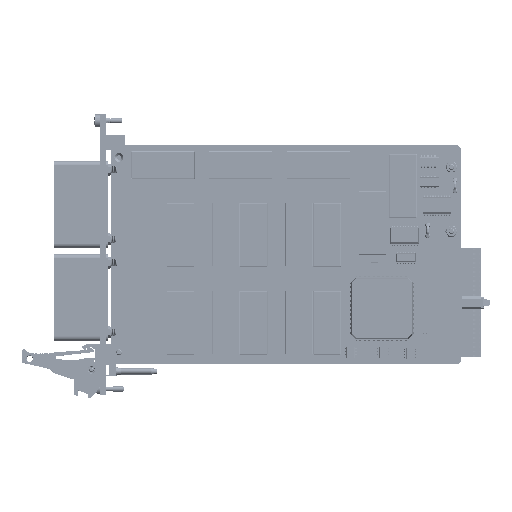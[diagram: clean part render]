
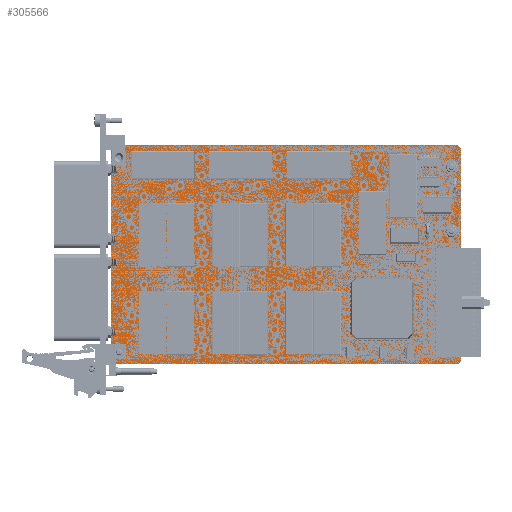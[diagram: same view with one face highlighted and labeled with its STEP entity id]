
A CAD part, top view. The second image highlights one B-rep face of the part: STEP entity #305566.
In plain terms, the highlighted planar face has unit normal (0, 0, 1).
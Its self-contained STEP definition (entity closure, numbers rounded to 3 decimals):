
#2215 = LINE ( 'NONE', #192130, #225835 ) ;
#9747 = DIRECTION ( 'NONE',  ( 1., 0., 0. ) ) ;
#12756 = LINE ( 'NONE', #96380, #140580 ) ;
#20970 = CARTESIAN_POINT ( 'NONE',  ( 158.586, 0., 1.6 ) ) ;
#23038 = EDGE_CURVE ( 'NONE', #95417, #287426, #123473, .T. ) ;
#26753 = ORIENTED_EDGE ( 'NONE', *, *, #106630, .T. ) ;
#31537 = ORIENTED_EDGE ( 'NONE', *, *, #69005, .T. ) ;
#38990 = LINE ( 'NONE', #260759, #349522 ) ;
#45846 = VECTOR ( 'NONE', #210813, 1000. ) ;
#55824 = ORIENTED_EDGE ( 'NONE', *, *, #150716, .T. ) ;
#69005 = EDGE_CURVE ( 'NONE', #201249, #92434, #38990, .T. ) ;
#77068 = CARTESIAN_POINT ( 'NONE',  ( 0., 100., 1.6 ) ) ;
#79365 = CARTESIAN_POINT ( 'NONE',  ( 0., 0., 1.6 ) ) ;
#92434 = VERTEX_POINT ( 'NONE', #224936 ) ;
#95417 = VERTEX_POINT ( 'NONE', #173807 ) ;
#96380 = CARTESIAN_POINT ( 'NONE',  ( 158.586, 100., 1.6 ) ) ;
#106630 = EDGE_CURVE ( 'NONE', #291769, #95417, #184882, .T. ) ;
#107339 = VECTOR ( 'NONE', #365499, 1000. ) ;
#123473 = LINE ( 'NONE', #154652, #45846 ) ;
#123652 = ORIENTED_EDGE ( 'NONE', *, *, #159037, .T. ) ;
#126004 = VECTOR ( 'NONE', #223767, 1000. ) ;
#130358 = DIRECTION ( 'NONE',  ( 0., 1., 0. ) ) ;
#131140 = LINE ( 'NONE', #335862, #272433 ) ;
#140580 = VECTOR ( 'NONE', #180599, 1000. ) ;
#141916 = CARTESIAN_POINT ( 'NONE',  ( -0.002, 21.852, 1.6 ) ) ;
#150012 = VERTEX_POINT ( 'NONE', #265868 ) ;
#150716 = EDGE_CURVE ( 'NONE', #170322, #150012, #2215, .T. ) ;
#151869 = AXIS2_PLACEMENT_3D ( 'NONE', #156413, #217590, #9747 ) ;
#154652 = CARTESIAN_POINT ( 'NONE',  ( -0.002, 99.998, 1.6 ) ) ;
#156413 = CARTESIAN_POINT ( 'NONE',  ( 0., 0., 1.6 ) ) ;
#159037 = EDGE_CURVE ( 'NONE', #92434, #291769, #12756, .T. ) ;
#170322 = VERTEX_POINT ( 'NONE', #20970 ) ;
#173807 = CARTESIAN_POINT ( 'NONE',  ( -0.002, 99.998, 1.6 ) ) ;
#180599 = DIRECTION ( 'NONE',  ( -1., 0., 0. ) ) ;
#180995 = CARTESIAN_POINT ( 'NONE',  ( 0., 100., 1.6 ) ) ;
#181327 = EDGE_LOOP ( 'NONE', ( #55824, #239104, #31537, #123652, #26753, #318758, #224250, #308037 ) ) ;
#184882 = LINE ( 'NONE', #77068, #107339 ) ;
#192130 = CARTESIAN_POINT ( 'NONE',  ( 158.586, 0., 1.6 ) ) ;
#201249 = VERTEX_POINT ( 'NONE', #207714 ) ;
#203543 = LINE ( 'NONE', #324049, #126004 ) ;
#207714 = CARTESIAN_POINT ( 'NONE',  ( 160., 98.586, 1.6 ) ) ;
#210813 = DIRECTION ( 'NONE',  ( 0., -1., 0. ) ) ;
#216434 = VERTEX_POINT ( 'NONE', #79365 ) ;
#217590 = DIRECTION ( 'NONE',  ( 0., 0., 1. ) ) ;
#223767 = DIRECTION ( 'NONE',  ( 0., -1., 0. ) ) ;
#224250 = ORIENTED_EDGE ( 'NONE', *, *, #276504, .T. ) ;
#224936 = CARTESIAN_POINT ( 'NONE',  ( 158.586, 100., 1.6 ) ) ;
#225835 = VECTOR ( 'NONE', #278974, 1000. ) ;
#233748 = DIRECTION ( 'NONE',  ( 1., 0., 0. ) ) ;
#239104 = ORIENTED_EDGE ( 'NONE', *, *, #276024, .T. ) ;
#240701 = PLANE ( 'NONE',  #151869 ) ;
#245380 = LINE ( 'NONE', #296230, #254553 ) ;
#254553 = VECTOR ( 'NONE', #233748, 1000. ) ;
#260759 = CARTESIAN_POINT ( 'NONE',  ( 160., 98.586, 1.6 ) ) ;
#264553 = DIRECTION ( 'NONE',  ( -0.707, 0.707, 0. ) ) ;
#265868 = CARTESIAN_POINT ( 'NONE',  ( 160., 1.414, 1.6 ) ) ;
#272433 = VECTOR ( 'NONE', #130358, 1000. ) ;
#276024 = EDGE_CURVE ( 'NONE', #150012, #201249, #131140, .T. ) ;
#276504 = EDGE_CURVE ( 'NONE', #287426, #216434, #203543, .T. ) ;
#278974 = DIRECTION ( 'NONE',  ( 0.707, 0.707, 0. ) ) ;
#287426 = VERTEX_POINT ( 'NONE', #141916 ) ;
#291769 = VERTEX_POINT ( 'NONE', #180995 ) ;
#296230 = CARTESIAN_POINT ( 'NONE',  ( 0., 0., 1.6 ) ) ;
#305566 = ADVANCED_FACE ( 'NONE', ( #357925 ), #240701, .T. ) ;
#308037 = ORIENTED_EDGE ( 'NONE', *, *, #309715, .T. ) ;
#309715 = EDGE_CURVE ( 'NONE', #216434, #170322, #245380, .T. ) ;
#318758 = ORIENTED_EDGE ( 'NONE', *, *, #23038, .T. ) ;
#324049 = CARTESIAN_POINT ( 'NONE',  ( -0.002, 21.852, 1.6 ) ) ;
#335862 = CARTESIAN_POINT ( 'NONE',  ( 160., 1.414, 1.6 ) ) ;
#349522 = VECTOR ( 'NONE', #264553, 1000. ) ;
#357925 = FACE_OUTER_BOUND ( 'NONE', #181327, .T. ) ;
#365499 = DIRECTION ( 'NONE',  ( -0.707, -0.707, 0. ) ) ;
